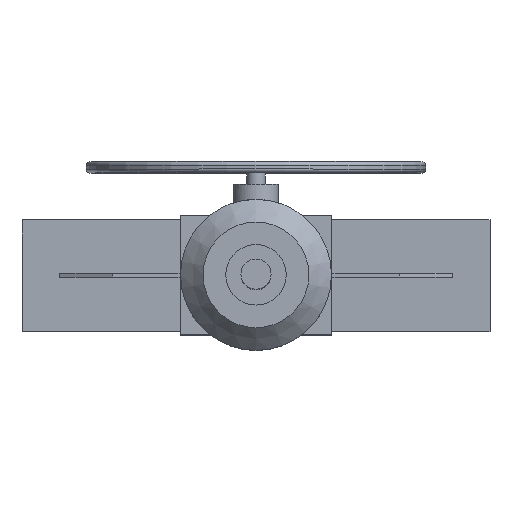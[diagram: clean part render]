
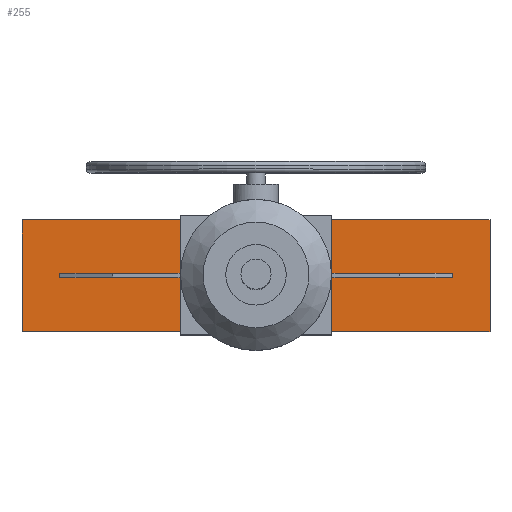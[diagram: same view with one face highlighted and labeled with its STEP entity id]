
A CAD part, top view. The second image highlights one B-rep face of the part: STEP entity #255.
In plain terms, the highlighted planar face has unit normal (0, 0, 1).
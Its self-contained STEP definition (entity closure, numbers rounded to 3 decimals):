
#255=ADVANCED_FACE('',(#2288,#2290),#2292,.T.);
#2288=FACE_BOUND('',#2289,.T.);
#2289=EDGE_LOOP('',(#4006,#4007,#4008,#4009,#4010,#4011,#4012,#4013));
#2290=FACE_BOUND('',#2291,.T.);
#2291=EDGE_LOOP('',(#4014,#4015,#4016,#4017));
#2292=PLANE('',#2293);
#2293=AXIS2_PLACEMENT_3D('',#2294,#2295,#2296);
#2294=CARTESIAN_POINT('',(0.,0.,490.));
#2295=DIRECTION('',(0.,0.,1.));
#2296=DIRECTION('',(1.,0.,0.));
#4006=ORIENTED_EDGE('',*,*,#4994,.F.);
#4007=ORIENTED_EDGE('',*,*,#4992,.T.);
#4008=ORIENTED_EDGE('',*,*,#5001,.T.);
#4009=ORIENTED_EDGE('',*,*,#4983,.T.);
#4010=ORIENTED_EDGE('',*,*,#4997,.F.);
#4011=ORIENTED_EDGE('',*,*,#4987,.T.);
#4012=ORIENTED_EDGE('',*,*,#5002,.T.);
#4013=ORIENTED_EDGE('',*,*,#4988,.T.);
#4014=ORIENTED_EDGE('',*,*,#5003,.F.);
#4015=ORIENTED_EDGE('',*,*,#5004,.F.);
#4016=ORIENTED_EDGE('',*,*,#5005,.F.);
#4017=ORIENTED_EDGE('',*,*,#5006,.F.);
#4983=EDGE_CURVE('',#5533,#5501,#5534,.T.);
#4987=EDGE_CURVE('',#5517,#5539,#5541,.T.);
#4988=EDGE_CURVE('',#5542,#5523,#5543,.T.);
#4992=EDGE_CURVE('',#5507,#5548,#5550,.T.);
#4994=EDGE_CURVE('',#5507,#5523,#5552,.T.);
#4997=EDGE_CURVE('',#5517,#5501,#5556,.T.);
#5001=EDGE_CURVE('',#5548,#5533,#5563,.T.);
#5002=EDGE_CURVE('',#5539,#5542,#5564,.T.);
#5003=EDGE_CURVE('',#5565,#5566,#5567,.T.);
#5004=EDGE_CURVE('',#5568,#5565,#5569,.F.);
#5005=EDGE_CURVE('',#5570,#5568,#5571,.T.);
#5006=EDGE_CURVE('',#5566,#5570,#5572,.T.);
#5501=VERTEX_POINT('',#6446);
#5507=VERTEX_POINT('',#6458);
#5517=VERTEX_POINT('',#6480);
#5523=VERTEX_POINT('',#6492);
#5533=VERTEX_POINT('',#6516);
#5534=LINE('',#6517,#6518);
#5539=VERTEX_POINT('',#6528);
#5541=LINE('',#6532,#6533);
#5542=VERTEX_POINT('',#6535);
#5543=LINE('',#6536,#6537);
#5548=VERTEX_POINT('',#6547);
#5550=LINE('',#6551,#6552);
#5552=LINE('',#6557,#6558);
#5556=LINE('',#6568,#6569);
#5563=LINE('',#6650,#6651);
#5564=LINE('',#6653,#6654);
#5565=VERTEX_POINT('',#6656);
#5566=VERTEX_POINT('',#6657);
#5567=LINE('',#6658,#6659);
#5568=VERTEX_POINT('',#6661);
#5569=LINE('',#6662,#6663);
#5570=VERTEX_POINT('',#6665);
#5571=LINE('',#6666,#6667);
#5572=LINE('',#6669,#6670);
#6446=CARTESIAN_POINT('',(100.,74.,490.));
#6458=CARTESIAN_POINT('',(100.,-74.,490.));
#6480=CARTESIAN_POINT('',(-100.,74.,490.));
#6492=CARTESIAN_POINT('',(-100.,-74.,490.));
#6516=CARTESIAN_POINT('',(310.,74.,490.));
#6517=CARTESIAN_POINT('',(310.,74.,490.));
#6518=VECTOR('',#6519,1.);
#6519=DIRECTION('',(-1.,0.,0.));
#6528=CARTESIAN_POINT('',(-310.,74.,490.));
#6532=CARTESIAN_POINT('',(-100.,74.,490.));
#6533=VECTOR('',#6534,1.);
#6534=DIRECTION('',(-1.,0.,0.));
#6535=CARTESIAN_POINT('',(-310.,-74.,490.));
#6536=CARTESIAN_POINT('',(-310.,-74.,490.));
#6537=VECTOR('',#6538,1.);
#6538=DIRECTION('',(1.,0.,0.));
#6547=CARTESIAN_POINT('',(310.,-74.,490.));
#6551=CARTESIAN_POINT('',(100.,-74.,490.));
#6552=VECTOR('',#6553,1.);
#6553=DIRECTION('',(1.,0.,0.));
#6557=CARTESIAN_POINT('',(100.,-74.,490.));
#6558=VECTOR('',#6559,1.);
#6559=DIRECTION('',(-1.,0.,0.));
#6568=CARTESIAN_POINT('',(-100.,74.,490.));
#6569=VECTOR('',#6570,1.);
#6570=DIRECTION('',(1.,0.,0.));
#6650=CARTESIAN_POINT('',(310.,-74.,490.));
#6651=VECTOR('',#6652,1.);
#6652=DIRECTION('',(0.,1.,0.));
#6653=CARTESIAN_POINT('',(-310.,74.,490.));
#6654=VECTOR('',#6655,1.);
#6655=DIRECTION('',(0.,-1.,0.));
#6656=CARTESIAN_POINT('',(-260.,2.5,490.));
#6657=CARTESIAN_POINT('',(-260.,-2.5,490.));
#6658=CARTESIAN_POINT('',(-260.,2.5,490.));
#6659=VECTOR('',#6660,1.);
#6660=DIRECTION('',(0.,-1.,0.));
#6661=CARTESIAN_POINT('',(260.,2.5,490.));
#6662=CARTESIAN_POINT('',(-260.,2.5,490.));
#6663=VECTOR('',#6664,1.);
#6664=DIRECTION('',(1.,0.,0.));
#6665=CARTESIAN_POINT('',(260.,-2.5,490.));
#6666=CARTESIAN_POINT('',(260.,-2.5,490.));
#6667=VECTOR('',#6668,1.);
#6668=DIRECTION('',(0.,1.,0.));
#6669=CARTESIAN_POINT('',(-260.,-2.5,490.));
#6670=VECTOR('',#6671,1.);
#6671=DIRECTION('',(1.,0.,0.));
